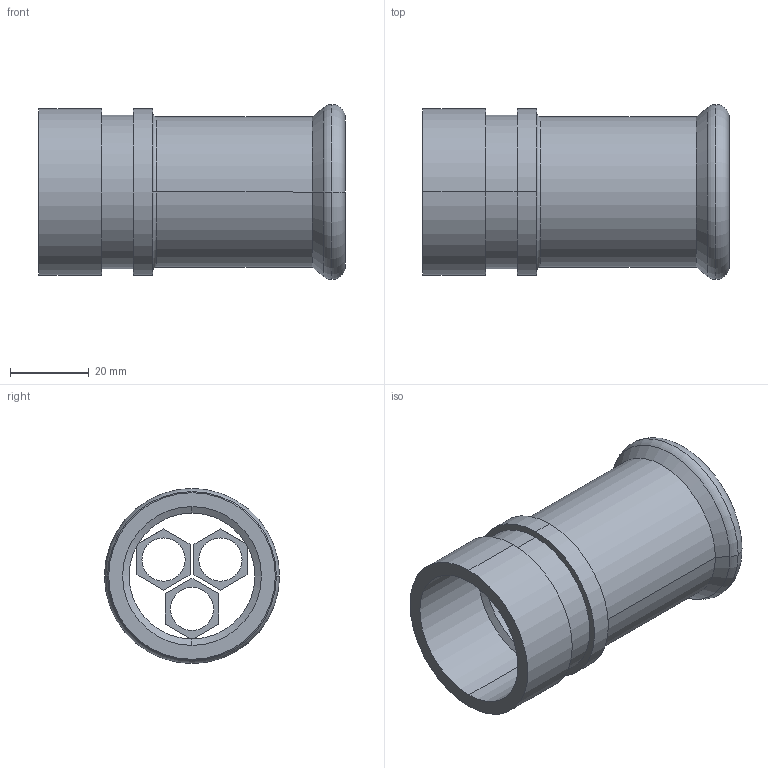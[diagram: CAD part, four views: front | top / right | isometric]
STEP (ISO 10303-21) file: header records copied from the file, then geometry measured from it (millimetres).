
FILE_DESCRIPTION(('OneSpaceDesigner STEP Export'),'2;1');
FILE_NAME('R2748 42x35.stp','2010-06-10T14:51:06',(''),(''),'OneSpace Designer STEP processor for AP214 (Solid Model)','OneSpace Modeling 15.00A 14-Mar-2007 (C) CoCreate Software GmbH','');
FILE_SCHEMA(('AUTOMOTIVE_DESIGN { 1 0 10303 214 1 1 1 1 }'));
Length unit declared in the file: millimetre
Products named in the file (2): R2748_42x35
Assembly tree (1 placements, depth 2):
  R2748_42x35
    R2748_42x35
Bounding box: 78 x 44.55 x 44.55 mm (x, y, z)
Volume: 22607.7 mm3; surface area: 21345.6 mm2
Topology: 1 solids, 1 shells, 69 faces, 178 edges, 118 vertices
Faces by surface type: plane 34, cylinder 25, torus 6, cone 4
Entity records: 1865 total; most frequent: ORIENTED_EDGE 356, CARTESIAN_POINT 300, DIRECTION 269, EDGE_CURVE 178, VERTEX_POINT 118, VECTOR 95, LINE 95, AXIS2_PLACEMENT_3D 87
